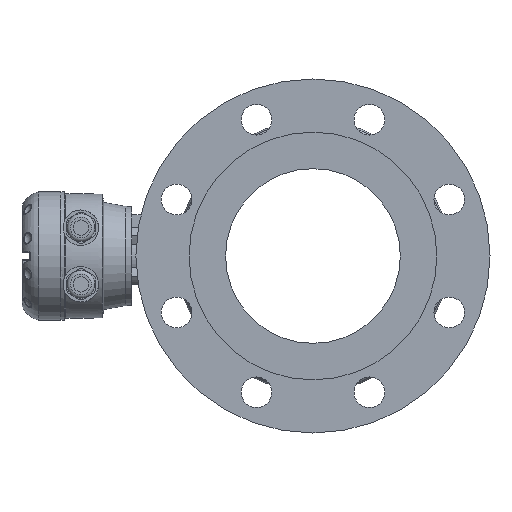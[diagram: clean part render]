
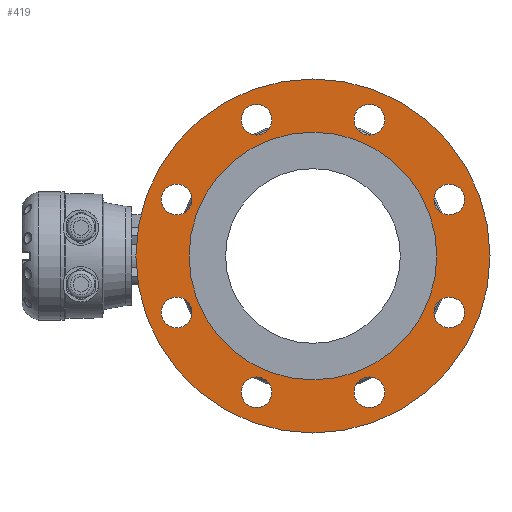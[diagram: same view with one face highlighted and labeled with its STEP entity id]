
A CAD part, left-side view. The second image highlights one B-rep face of the part: STEP entity #419.
In plain terms, the highlighted planar face has unit normal (-1, 0, 0).
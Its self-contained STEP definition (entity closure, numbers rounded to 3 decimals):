
#32 = CIRCLE ( 'NONE', #15705, 13. ) ;
#55 = CIRCLE ( 'NONE', #15723, 13. ) ;
#124 = CIRCLE ( 'NONE', #15727, 13. ) ;
#127 = CIRCLE ( 'NONE', #15729, 13. ) ;
#419 = ADVANCED_FACE ( 'NONE', ( #14567, #14573, #14575, #14577, #14571, #14566, #14574, #14576, #14578, #14572 ), #13007, .T. ) ;
#767 = CIRCLE ( 'NONE', #15472, 150. ) ;
#793 = CIRCLE ( 'NONE', #15482, 13. ) ;
#802 = CIRCLE ( 'NONE', #15492, 13. ) ;
#805 = CIRCLE ( 'NONE', #15495, 13. ) ;
#851 = CIRCLE ( 'NONE', #15511, 104.95 ) ;
#979 = CIRCLE ( 'NONE', #15571, 13. ) ;
#1823 = ORIENTED_EDGE ( 'NONE', *, *, #3082, .T. ) ;
#1826 = ORIENTED_EDGE ( 'NONE', *, *, #3965, .F. ) ;
#1832 = ORIENTED_EDGE ( 'NONE', *, *, #2372, .F. ) ;
#2372 = EDGE_CURVE ( 'NONE', #7822, #7822, #767, .T. ) ;
#2664 = EDGE_CURVE ( 'NONE', #7832, #7832, #793, .T. ) ;
#2712 = EDGE_CURVE ( 'NONE', #7840, #7840, #802, .T. ) ;
#2733 = EDGE_CURVE ( 'NONE', #7844, #7844, #805, .T. ) ;
#2785 = CARTESIAN_POINT ( 'NONE',  ( -139.805, -147.017, -10.543 ) ) ;
#2790 = DIRECTION ( 'NONE',  ( 1., 0., 0. ) ) ;
#2791 = DIRECTION ( 'NONE',  ( 0., 0., -1. ) ) ;
#2839 = CARTESIAN_POINT ( 'NONE',  ( -139.805, -31.532, 37.293 ) ) ;
#2843 = DIRECTION ( 'NONE',  ( -1., 0., 0. ) ) ;
#2845 = DIRECTION ( 'NONE',  ( 0., 0., 1. ) ) ;
#2858 = CARTESIAN_POINT ( 'NONE',  ( -139.805, -194.852, 104.942 ) ) ;
#2869 = DIRECTION ( 'NONE',  ( -1., 0., 0. ) ) ;
#2870 = DIRECTION ( 'NONE',  ( 0., 0., 1. ) ) ;
#2871 = CARTESIAN_POINT ( 'NONE',  ( -139.805, -99.181, 104.942 ) ) ;
#2880 = DIRECTION ( 'NONE',  ( -1., 0., 0. ) ) ;
#2881 = DIRECTION ( 'NONE',  ( 0., 0., 1. ) ) ;
#3082 = EDGE_CURVE ( 'NONE', #7862, #7862, #851, .T. ) ;
#3160 = CARTESIAN_POINT ( 'NONE',  ( -139.805, -147.017, -10.543 ) ) ;
#3173 = DIRECTION ( 'NONE',  ( 1., 0., 0. ) ) ;
#3174 = DIRECTION ( 'NONE',  ( 0., 0., -1. ) ) ;
#3965 = EDGE_CURVE ( 'NONE', #7906, #7906, #979, .T. ) ;
#4032 = CARTESIAN_POINT ( 'NONE',  ( -139.805, -31.532, -58.378 ) ) ;
#4039 = DIRECTION ( 'NONE',  ( -1., 0., 0. ) ) ;
#4040 = DIRECTION ( 'NONE',  ( 0., 0., 1. ) ) ;
#7546 = CARTESIAN_POINT ( 'NONE',  ( -139.805, -194.852, -126.028 ) ) ;
#7547 = DIRECTION ( 'NONE',  ( -1., 0., 0. ) ) ;
#7548 = DIRECTION ( 'NONE',  ( 0., 0., 1. ) ) ;
#7578 = CARTESIAN_POINT ( 'NONE',  ( -139.805, -99.181, -126.028 ) ) ;
#7581 = DIRECTION ( 'NONE',  ( -1., 0., 0. ) ) ;
#7582 = DIRECTION ( 'NONE',  ( 0., 0., 1. ) ) ;
#7695 = CARTESIAN_POINT ( 'NONE',  ( -139.805, -262.502, -58.378 ) ) ;
#7702 = CARTESIAN_POINT ( 'NONE',  ( -139.805, -262.502, 37.293 ) ) ;
#7703 = DIRECTION ( 'NONE',  ( -1., 0., 0. ) ) ;
#7704 = DIRECTION ( 'NONE',  ( 0., 0., 1. ) ) ;
#7709 = DIRECTION ( 'NONE',  ( -1., 0., 0. ) ) ;
#7710 = DIRECTION ( 'NONE',  ( 0., 0., 1. ) ) ;
#7822 = VERTEX_POINT ( 'NONE', #7823 ) ;
#7823 = CARTESIAN_POINT ( 'NONE',  ( -139.805, -147.017, -160.543 ) ) ;
#7832 = VERTEX_POINT ( 'NONE', #7833 ) ;
#7833 = CARTESIAN_POINT ( 'NONE',  ( -139.805, -31.532, 50.293 ) ) ;
#7840 = VERTEX_POINT ( 'NONE', #7841 ) ;
#7841 = CARTESIAN_POINT ( 'NONE',  ( -139.805, -194.852, 117.942 ) ) ;
#7844 = VERTEX_POINT ( 'NONE', #7845 ) ;
#7845 = CARTESIAN_POINT ( 'NONE',  ( -139.805, -99.181, 117.942 ) ) ;
#7862 = VERTEX_POINT ( 'NONE', #7863 ) ;
#7863 = CARTESIAN_POINT ( 'NONE',  ( -139.805, -147.017, -115.493 ) ) ;
#7906 = VERTEX_POINT ( 'NONE', #7907 ) ;
#7907 = CARTESIAN_POINT ( 'NONE',  ( -139.805, -31.532, -45.378 ) ) ;
#8022 = VERTEX_POINT ( 'NONE', #8023 ) ;
#8023 = CARTESIAN_POINT ( 'NONE',  ( -139.805, -194.852, -113.028 ) ) ;
#8026 = VERTEX_POINT ( 'NONE', #8027 ) ;
#8027 = CARTESIAN_POINT ( 'NONE',  ( -139.805, -99.181, -113.028 ) ) ;
#8032 = VERTEX_POINT ( 'NONE', #8033 ) ;
#8033 = CARTESIAN_POINT ( 'NONE',  ( -139.805, -262.502, -45.378 ) ) ;
#8036 = VERTEX_POINT ( 'NONE', #8037 ) ;
#8037 = CARTESIAN_POINT ( 'NONE',  ( -139.805, -262.502, 50.293 ) ) ;
#8324 = EDGE_LOOP ( 'NONE', ( #14052 ) ) ;
#8325 = EDGE_LOOP ( 'NONE', ( #1832 ) ) ;
#8326 = EDGE_LOOP ( 'NONE', ( #8719 ) ) ;
#8327 = EDGE_LOOP ( 'NONE', ( #8341 ) ) ;
#8328 = EDGE_LOOP ( 'NONE', ( #1823 ) ) ;
#8329 = EDGE_LOOP ( 'NONE', ( #14027 ) ) ;
#8331 = EDGE_LOOP ( 'NONE', ( #8748 ) ) ;
#8332 = EDGE_LOOP ( 'NONE', ( #13722 ) ) ;
#8333 = EDGE_LOOP ( 'NONE', ( #1826 ) ) ;
#8337 = EDGE_LOOP ( 'NONE', ( #13839 ) ) ;
#8341 = ORIENTED_EDGE ( 'NONE', *, *, #2664, .F. ) ;
#8719 = ORIENTED_EDGE ( 'NONE', *, *, #2733, .F. ) ;
#8748 = ORIENTED_EDGE ( 'NONE', *, *, #2712, .F. ) ;
#13007 = PLANE ( 'NONE',  #15318 ) ;
#13014 = CARTESIAN_POINT ( 'NONE',  ( -139.805, -147.017, -10.543 ) ) ;
#13019 = DIRECTION ( 'NONE',  ( -1., 0., 0. ) ) ;
#13020 = DIRECTION ( 'NONE',  ( 0., 0., -1. ) ) ;
#13722 = ORIENTED_EDGE ( 'NONE', *, *, #15115, .F. ) ;
#13839 = ORIENTED_EDGE ( 'NONE', *, *, #15051, .F. ) ;
#14027 = ORIENTED_EDGE ( 'NONE', *, *, #15113, .F. ) ;
#14052 = ORIENTED_EDGE ( 'NONE', *, *, #15065, .F. ) ;
#14566 = FACE_BOUND ( 'NONE', #8337, .T. ) ;
#14567 = FACE_BOUND ( 'NONE', #8327, .T. ) ;
#14571 = FACE_BOUND ( 'NONE', #8329, .T. ) ;
#14572 = FACE_BOUND ( 'NONE', #8328, .T. ) ;
#14573 = FACE_BOUND ( 'NONE', #8326, .T. ) ;
#14574 = FACE_BOUND ( 'NONE', #8324, .T. ) ;
#14575 = FACE_BOUND ( 'NONE', #8331, .T. ) ;
#14576 = FACE_BOUND ( 'NONE', #8333, .T. ) ;
#14577 = FACE_BOUND ( 'NONE', #8332, .T. ) ;
#14578 = FACE_OUTER_BOUND ( 'NONE', #8325, .T. ) ;
#15051 = EDGE_CURVE ( 'NONE', #8022, #8022, #32, .T. ) ;
#15065 = EDGE_CURVE ( 'NONE', #8026, #8026, #55, .T. ) ;
#15113 = EDGE_CURVE ( 'NONE', #8032, #8032, #124, .T. ) ;
#15115 = EDGE_CURVE ( 'NONE', #8036, #8036, #127, .T. ) ;
#15318 = AXIS2_PLACEMENT_3D ( 'NONE', #13014, #13019, #13020 ) ;
#15472 = AXIS2_PLACEMENT_3D ( 'NONE', #2785, #2790, #2791 ) ;
#15482 = AXIS2_PLACEMENT_3D ( 'NONE', #2839, #2843, #2845 ) ;
#15492 = AXIS2_PLACEMENT_3D ( 'NONE', #2858, #2869, #2870 ) ;
#15495 = AXIS2_PLACEMENT_3D ( 'NONE', #2871, #2880, #2881 ) ;
#15511 = AXIS2_PLACEMENT_3D ( 'NONE', #3160, #3173, #3174 ) ;
#15571 = AXIS2_PLACEMENT_3D ( 'NONE', #4032, #4039, #4040 ) ;
#15705 = AXIS2_PLACEMENT_3D ( 'NONE', #7546, #7547, #7548 ) ;
#15723 = AXIS2_PLACEMENT_3D ( 'NONE', #7578, #7581, #7582 ) ;
#15727 = AXIS2_PLACEMENT_3D ( 'NONE', #7695, #7703, #7704 ) ;
#15729 = AXIS2_PLACEMENT_3D ( 'NONE', #7702, #7709, #7710 ) ;
